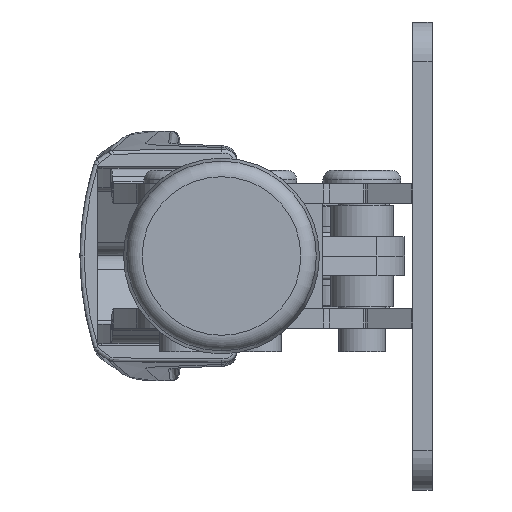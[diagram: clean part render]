
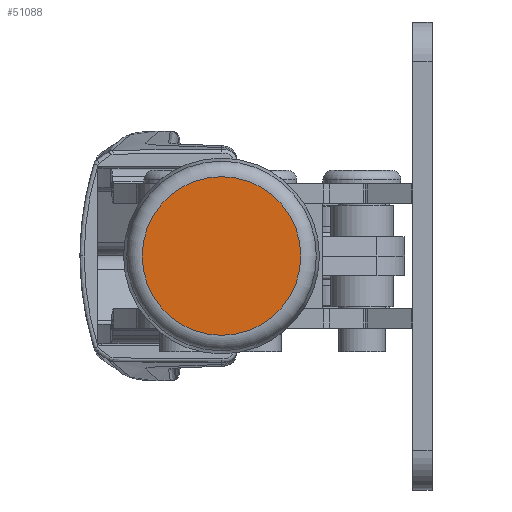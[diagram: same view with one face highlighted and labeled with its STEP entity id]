
A CAD part, left-side view. The second image highlights one B-rep face of the part: STEP entity #51088.
In plain terms, the highlighted planar face has unit normal (-1, 0, 0).
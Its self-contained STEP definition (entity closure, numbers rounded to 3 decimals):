
#51059=CARTESIAN_POINT('',(-108.485,27.003,10.167));
#51060=VERTEX_POINT('',#51059);
#51068=CARTESIAN_POINT('',(-108.485,27.003,0.));
#51069=DIRECTION('',(0.,0.,1.));
#51070=DIRECTION('',(1.,0.,0.));
#51071=AXIS2_PLACEMENT_3D('',#51068,#51070,#51069);
#51072=CIRCLE('',#51071,10.167);
#51073=EDGE_CURVE('',#51060,#51060,#51072,.T.);
#51080=CARTESIAN_POINT('',(-108.485,27.003,0.));
#51081=DIRECTION('',(0.,0.,1.));
#51082=DIRECTION('',(-1.,0.,0.));
#51083=AXIS2_PLACEMENT_3D('',#51080,#51082,#51081);
#51084=PLANE('',#51083);
#51085=ORIENTED_EDGE('',*,*,#51073,.F.);
#51086=EDGE_LOOP('',(#51085));
#51087=FACE_OUTER_BOUND('',#51086,.T.);
#51088=ADVANCED_FACE('',(#51087),#51084,.T.);
